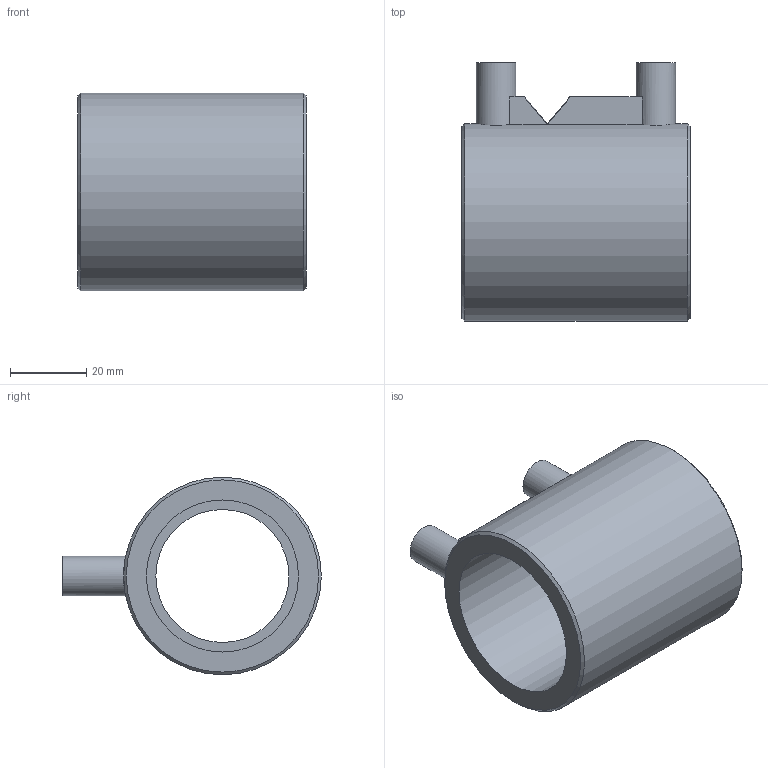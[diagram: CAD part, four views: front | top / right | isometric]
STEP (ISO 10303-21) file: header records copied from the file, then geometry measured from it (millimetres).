
FILE_DESCRIPTION(/* description */ (''),/* implementation_level */ '2;1');
FILE_NAME(/* name */ 'H:\Geberit-Teile\Export\Fertig zum Export\Elektro-Schweissmuffe_Ipart\stp\360771.stp',/* time_stamp */ '2017-07-24T13:32:54+02:00',/* author */ ('seihe2'),/* organization */ (''),/* preprocessor_version */ 'ST-DEVELOPER v15.2',/* originating_system */ 'Autodesk Inventor 2014',/* authorisation */ '');
FILE_SCHEMA (('AUTOMOTIVE_DESIGN { 1 0 10303 214 3 1 1 }'));
Length unit declared in the file: millimetre
Products named in the file (1): 360771
Bounding box: 60 x 68 x 52 mm (x, y, z)
Volume: 55573.6 mm3; surface area: 21948.9 mm2
Topology: 1 solids, 1 shells, 30 faces, 64 edges, 42 vertices
Faces by surface type: plane 14, cylinder 12, cone 4
Full cylindrical faces by diameter (mm): 7.4 x2, 10.4 x2, 35 x1, 40 x2, 41.2 x2, 52 x1
Entity records: 866 total; most frequent: CARTESIAN_POINT 242, DIRECTION 116, ORIENTED_EDGE 90, AXIS2_PLACEMENT_3D 52, EDGE_LOOP 51, EDGE_CURVE 45, VERTEX_POINT 36, STYLED_ITEM 31
